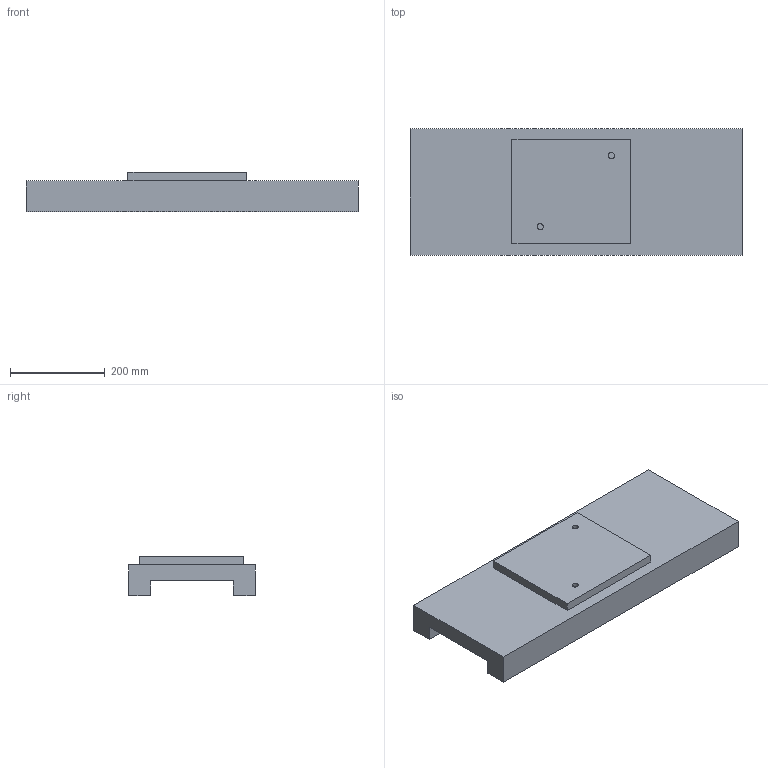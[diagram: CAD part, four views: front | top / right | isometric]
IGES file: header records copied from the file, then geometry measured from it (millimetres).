
Start section: SolidWorks IGES FILE using analytic representation for surfaces
Global section: file name: C:\Documents and Settings\lepoivre\Mes documents\Formation continue\NCSIMUL\aurelie\x.IGS; native system: SolidWorks 2003 by SolidWorks Corporation; preprocessor: Version 5.3; author: lepoivre; date: 050317.180711; units: millimetre
Bounding box: 700 x 267 x 83 mm (x, y, z)
Surface area: 550395.2 mm2 (no closed solid volume)
Topology: 0 solids, 0 shells, 21 faces, 216 edges, 216 vertices
Faces by surface type: bspline 17, revolution 4
